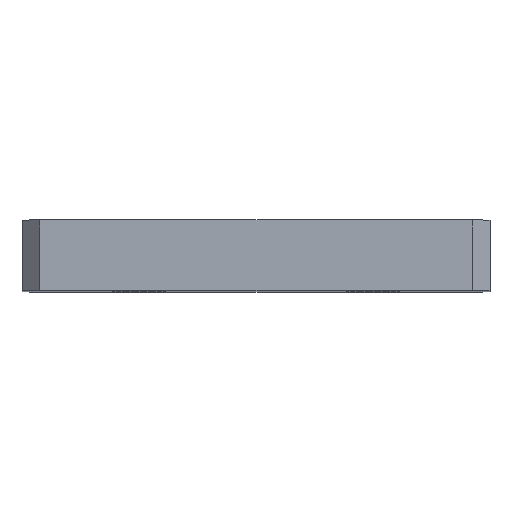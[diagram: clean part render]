
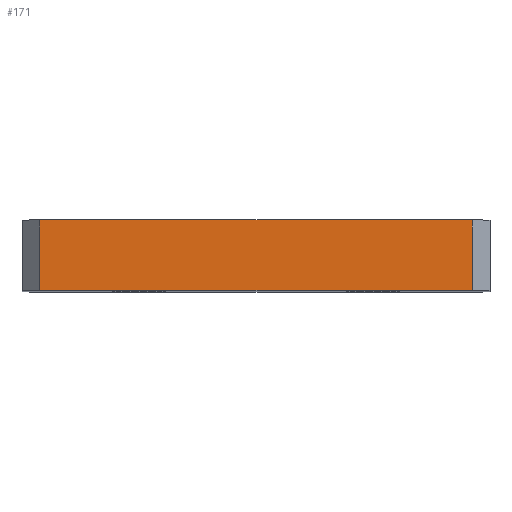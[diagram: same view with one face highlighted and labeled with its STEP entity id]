
A CAD part, top view. The second image highlights one B-rep face of the part: STEP entity #171.
In plain terms, the highlighted planar face has unit normal (0, 0, 1).
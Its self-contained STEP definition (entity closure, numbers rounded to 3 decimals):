
#9 = LINE ( 'NONE', #379, #702 ) ;
#37 = PLANE ( 'NONE',  #511 ) ;
#64 = DIRECTION ( 'NONE',  ( 1., 0., 0. ) ) ;
#81 = VECTOR ( 'NONE', #660, 1000. ) ;
#88 = EDGE_CURVE ( 'NONE', #1093, #1043, #165, .T. ) ;
#133 = VERTEX_POINT ( 'NONE', #722 ) ;
#165 = LINE ( 'NONE', #182, #989 ) ;
#171 = ADVANCED_FACE ( 'NONE', ( #493 ), #37, .F. ) ;
#176 = ORIENTED_EDGE ( 'NONE', *, *, #419, .T. ) ;
#182 = CARTESIAN_POINT ( 'NONE',  ( -37., 0., 90. ) ) ;
#195 = VECTOR ( 'NONE', #906, 1000. ) ;
#215 = CARTESIAN_POINT ( 'NONE',  ( 37., 12., 90. ) ) ;
#260 = DIRECTION ( 'NONE',  ( 1., 0., 0. ) ) ;
#322 = CARTESIAN_POINT ( 'NONE',  ( 37., 0., 90. ) ) ;
#379 = CARTESIAN_POINT ( 'NONE',  ( -37., 12., 90. ) ) ;
#384 = ORIENTED_EDGE ( 'NONE', *, *, #88, .T. ) ;
#419 = EDGE_CURVE ( 'NONE', #133, #1093, #948, .T. ) ;
#463 = ORIENTED_EDGE ( 'NONE', *, *, #600, .F. ) ;
#493 = FACE_OUTER_BOUND ( 'NONE', #595, .T. ) ;
#511 = AXIS2_PLACEMENT_3D ( 'NONE', #1000, #814, #985 ) ;
#557 = LINE ( 'NONE', #215, #195 ) ;
#587 = ORIENTED_EDGE ( 'NONE', *, *, #713, .F. ) ;
#595 = EDGE_LOOP ( 'NONE', ( #384, #463, #587, #176 ) ) ;
#600 = EDGE_CURVE ( 'NONE', #932, #1043, #557, .T. ) ;
#660 = DIRECTION ( 'NONE',  ( 0., -1., 0. ) ) ;
#702 = VECTOR ( 'NONE', #64, 1000. ) ;
#708 = CARTESIAN_POINT ( 'NONE',  ( -37., 0., 90. ) ) ;
#713 = EDGE_CURVE ( 'NONE', #133, #932, #9, .T. ) ;
#722 = CARTESIAN_POINT ( 'NONE',  ( -37., 12., 90. ) ) ;
#814 = DIRECTION ( 'NONE',  ( 0., 0., -1. ) ) ;
#877 = CARTESIAN_POINT ( 'NONE',  ( 37., 12., 90. ) ) ;
#906 = DIRECTION ( 'NONE',  ( 0., -1., 0. ) ) ;
#932 = VERTEX_POINT ( 'NONE', #877 ) ;
#948 = LINE ( 'NONE', #1096, #81 ) ;
#985 = DIRECTION ( 'NONE',  ( -1., 0., 0. ) ) ;
#989 = VECTOR ( 'NONE', #260, 1000. ) ;
#1000 = CARTESIAN_POINT ( 'NONE',  ( -37., 12., 90. ) ) ;
#1043 = VERTEX_POINT ( 'NONE', #322 ) ;
#1093 = VERTEX_POINT ( 'NONE', #708 ) ;
#1096 = CARTESIAN_POINT ( 'NONE',  ( -37., 12., 90. ) ) ;
